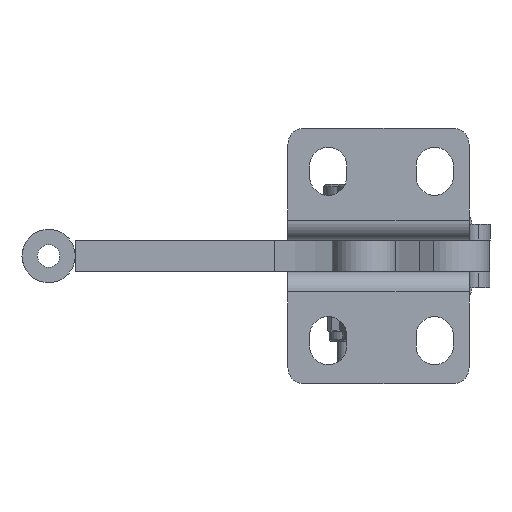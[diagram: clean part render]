
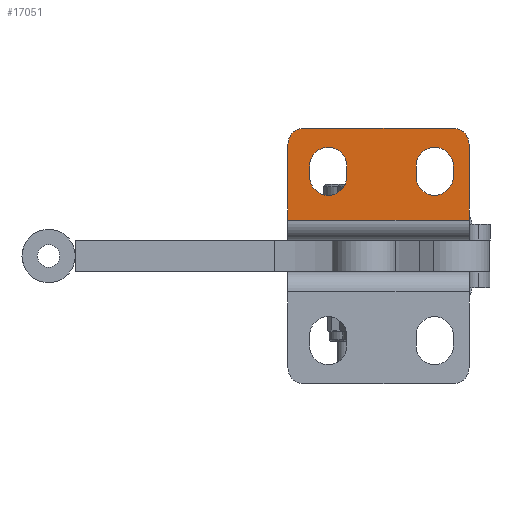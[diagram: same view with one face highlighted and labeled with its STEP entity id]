
A CAD part, front view. The second image highlights one B-rep face of the part: STEP entity #17051.
In plain terms, the highlighted planar face has unit normal (0, -1, 0).
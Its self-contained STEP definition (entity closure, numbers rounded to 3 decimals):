
#460 = EDGE_CURVE ( 'NONE', #12134, #7991, #34077, .T. ) ;
#470 = ORIENTED_EDGE ( 'NONE', *, *, #5639, .T. ) ;
#508 = VERTEX_POINT ( 'NONE', #8697 ) ;
#656 = ORIENTED_EDGE ( 'NONE', *, *, #40962, .T. ) ;
#1043 = DIRECTION ( 'NONE',  ( 0., 1., 0. ) ) ;
#1283 = DIRECTION ( 'NONE',  ( 0., 0., 1. ) ) ;
#1452 = CARTESIAN_POINT ( 'NONE',  ( 19.7, -18.14, 18. ) ) ;
#1495 = CARTESIAN_POINT ( 'NONE',  ( -14.3, -18.14, -18.32 ) ) ;
#1612 = ORIENTED_EDGE ( 'NONE', *, *, #8827, .F. ) ;
#2179 = CARTESIAN_POINT ( 'NONE',  ( -10.25, -18.14, 10.9 ) ) ;
#2248 = DIRECTION ( 'NONE',  ( 0., 0., 1. ) ) ;
#2531 = CARTESIAN_POINT ( 'NONE',  ( -11.3, -18.14, 18. ) ) ;
#2622 = ORIENTED_EDGE ( 'NONE', *, *, #19426, .F. ) ;
#2812 = DIRECTION ( 'NONE',  ( 0., 0., -1. ) ) ;
#3585 = DIRECTION ( 'NONE',  ( 0., 0., -1. ) ) ;
#3758 = FACE_OUTER_BOUND ( 'NONE', #38787, .T. ) ;
#3832 = CIRCLE ( 'NONE', #27038, 3.5 ) ;
#4161 = DIRECTION ( 'NONE',  ( 0., 1., 0. ) ) ;
#4469 = ORIENTED_EDGE ( 'NONE', *, *, #31937, .T. ) ;
#4831 = DIRECTION ( 'NONE',  ( 0., 0., -1. ) ) ;
#4946 = AXIS2_PLACEMENT_3D ( 'NONE', #13488, #1043, #13893 ) ;
#5086 = ORIENTED_EDGE ( 'NONE', *, *, #16093, .F. ) ;
#5639 = EDGE_CURVE ( 'NONE', #21187, #28335, #25520, .T. ) ;
#6071 = LINE ( 'NONE', #6879, #33800 ) ;
#6325 = CARTESIAN_POINT ( 'NONE',  ( -6.75, -18.14, 10.9 ) ) ;
#6494 = CARTESIAN_POINT ( 'NONE',  ( -3.25, -18.14, 10.9 ) ) ;
#6879 = CARTESIAN_POINT ( 'NONE',  ( 37.012, -18.14, 0.737 ) ) ;
#7740 = VERTEX_POINT ( 'NONE', #16437 ) ;
#7746 = CARTESIAN_POINT ( 'NONE',  ( -6.75, -18.14, 8.9 ) ) ;
#7902 = ORIENTED_EDGE ( 'NONE', *, *, #34150, .T. ) ;
#7991 = VERTEX_POINT ( 'NONE', #12036 ) ;
#8697 = CARTESIAN_POINT ( 'NONE',  ( -6.75, -18.14, 5.4 ) ) ;
#8719 = VECTOR ( 'NONE', #3585, 1000. ) ;
#8827 = EDGE_CURVE ( 'NONE', #10641, #31086, #26568, .T. ) ;
#8901 = DIRECTION ( 'NONE',  ( 0., 0., -1. ) ) ;
#9346 = LINE ( 'NONE', #14964, #13157 ) ;
#10641 = VERTEX_POINT ( 'NONE', #40787 ) ;
#11026 = LINE ( 'NONE', #1495, #35394 ) ;
#11403 = VECTOR ( 'NONE', #18892, 1000. ) ;
#11794 = CARTESIAN_POINT ( 'NONE',  ( -6.75, -18.14, 8.9 ) ) ;
#11985 = ORIENTED_EDGE ( 'NONE', *, *, #17950, .T. ) ;
#12036 = CARTESIAN_POINT ( 'NONE',  ( 16.7, -18.14, 18. ) ) ;
#12044 = EDGE_CURVE ( 'NONE', #35690, #19881, #11026, .T. ) ;
#12083 = ORIENTED_EDGE ( 'NONE', *, *, #12474, .T. ) ;
#12134 = VERTEX_POINT ( 'NONE', #2531 ) ;
#12265 = CARTESIAN_POINT ( 'NONE',  ( 13.25, -18.14, 5.4 ) ) ;
#12474 = EDGE_CURVE ( 'NONE', #30758, #508, #14841, .T. ) ;
#12757 = CARTESIAN_POINT ( 'NONE',  ( 16.7, -18.14, 15. ) ) ;
#13157 = VECTOR ( 'NONE', #22039, 1000. ) ;
#13357 = ORIENTED_EDGE ( 'NONE', *, *, #16734, .T. ) ;
#13488 = CARTESIAN_POINT ( 'NONE',  ( 13.25, -18.14, 8.9 ) ) ;
#13707 = DIRECTION ( 'NONE',  ( 0., 0., -1. ) ) ;
#13744 = LINE ( 'NONE', #17263, #17549 ) ;
#13893 = DIRECTION ( 'NONE',  ( 0., 0., -1. ) ) ;
#14033 = VECTOR ( 'NONE', #33864, 1000. ) ;
#14766 = EDGE_CURVE ( 'NONE', #19881, #12134, #24771, .T. ) ;
#14841 = CIRCLE ( 'NONE', #18850, 3.5 ) ;
#14964 = CARTESIAN_POINT ( 'NONE',  ( 9.75, -18.14, 10.9 ) ) ;
#15457 = DIRECTION ( 'NONE',  ( 0., 1., 0. ) ) ;
#16093 = EDGE_CURVE ( 'NONE', #7991, #10641, #29393, .T. ) ;
#16301 = DIRECTION ( 'NONE',  ( 0., 0., 1. ) ) ;
#16437 = CARTESIAN_POINT ( 'NONE',  ( 9.75, -18.14, 8.9 ) ) ;
#16734 = EDGE_CURVE ( 'NONE', #27835, #21187, #3832, .T. ) ;
#17051 = ADVANCED_FACE ( 'N', ( #3758, #38278, #35767 ), #32643, .F. ) ;
#17263 = CARTESIAN_POINT ( 'NONE',  ( -10.25, -18.14, 10.9 ) ) ;
#17356 = CARTESIAN_POINT ( 'NONE',  ( 19.7, -18.14, 0.737 ) ) ;
#17537 = ORIENTED_EDGE ( 'NONE', *, *, #12044, .F. ) ;
#17549 = VECTOR ( 'NONE', #1283, 1000. ) ;
#17950 = EDGE_CURVE ( 'NONE', #7740, #27835, #9346, .T. ) ;
#18182 = ORIENTED_EDGE ( 'NONE', *, *, #460, .F. ) ;
#18594 = DIRECTION ( 'NONE',  ( 0., 0., -1. ) ) ;
#18850 = AXIS2_PLACEMENT_3D ( 'NONE', #11794, #40714, #8901 ) ;
#18892 = DIRECTION ( 'NONE',  ( 0., 0., -1. ) ) ;
#18921 = CIRCLE ( 'NONE', #4946, 3.5 ) ;
#19426 = EDGE_CURVE ( 'NONE', #31086, #35690, #6071, .T. ) ;
#19526 = AXIS2_PLACEMENT_3D ( 'NONE', #12757, #24845, #16301 ) ;
#19881 = VERTEX_POINT ( 'NONE', #23545 ) ;
#20643 = DIRECTION ( 'NONE',  ( 0., 1., 0. ) ) ;
#21187 = VERTEX_POINT ( 'NONE', #41001 ) ;
#21287 = VERTEX_POINT ( 'NONE', #39109 ) ;
#21581 = CARTESIAN_POINT ( 'NONE',  ( -3.25, -18.14, 8.9 ) ) ;
#21595 = CARTESIAN_POINT ( 'NONE',  ( -3.25, -18.14, 10.9 ) ) ;
#21760 = CARTESIAN_POINT ( 'NONE',  ( 9.75, -18.14, 10.9 ) ) ;
#22039 = DIRECTION ( 'NONE',  ( 0., 0., 1. ) ) ;
#22990 = EDGE_LOOP ( 'NONE', ( #13357, #470, #26186, #656, #11985 ) ) ;
#23265 = EDGE_CURVE ( 'NONE', #28335, #27264, #26257, .T. ) ;
#23545 = CARTESIAN_POINT ( 'NONE',  ( -14.3, -18.14, 15. ) ) ;
#24283 = CIRCLE ( 'NONE', #27579, 3.5 ) ;
#24439 = ORIENTED_EDGE ( 'NONE', *, *, #14766, .F. ) ;
#24469 = EDGE_CURVE ( 'NONE', #29667, #36934, #24283, .T. ) ;
#24771 = CIRCLE ( 'NONE', #28772, 3. ) ;
#24805 = CIRCLE ( 'NONE', #34110, 3.5 ) ;
#24831 = ORIENTED_EDGE ( 'NONE', *, *, #27079, .T. ) ;
#24845 = DIRECTION ( 'NONE',  ( 0., 1., 0. ) ) ;
#25437 = CARTESIAN_POINT ( 'NONE',  ( -14.3, -18.14, 0.737 ) ) ;
#25520 = LINE ( 'NONE', #31771, #11403 ) ;
#26029 = DIRECTION ( 'NONE',  ( 0., 0., -1. ) ) ;
#26186 = ORIENTED_EDGE ( 'NONE', *, *, #23265, .T. ) ;
#26257 = CIRCLE ( 'NONE', #31601, 3.5 ) ;
#26568 = LINE ( 'NONE', #1452, #32138 ) ;
#26819 = DIRECTION ( 'NONE',  ( 0., 0., 1. ) ) ;
#27038 = AXIS2_PLACEMENT_3D ( 'NONE', #39138, #32081, #26029 ) ;
#27079 = EDGE_CURVE ( 'NONE', #21287, #29667, #13744, .T. ) ;
#27165 = DIRECTION ( 'NONE',  ( 0., 1., 0. ) ) ;
#27189 = CARTESIAN_POINT ( 'NONE',  ( 16.75, -18.14, 8.9 ) ) ;
#27264 = VERTEX_POINT ( 'NONE', #12265 ) ;
#27579 = AXIS2_PLACEMENT_3D ( 'NONE', #6325, #34413, #2812 ) ;
#27835 = VERTEX_POINT ( 'NONE', #21760 ) ;
#28335 = VERTEX_POINT ( 'NONE', #27189 ) ;
#28495 = DIRECTION ( 'NONE',  ( 0., 0., 1. ) ) ;
#28772 = AXIS2_PLACEMENT_3D ( 'NONE', #34041, #27165, #2248 ) ;
#29393 = CIRCLE ( 'NONE', #19526, 3. ) ;
#29667 = VERTEX_POINT ( 'NONE', #2179 ) ;
#30758 = VERTEX_POINT ( 'NONE', #21581 ) ;
#31047 = AXIS2_PLACEMENT_3D ( 'NONE', #31821, #4161, #28495 ) ;
#31086 = VERTEX_POINT ( 'NONE', #17356 ) ;
#31448 = DIRECTION ( 'NONE',  ( -1., 0., 0. ) ) ;
#31601 = AXIS2_PLACEMENT_3D ( 'NONE', #40842, #15457, #18594 ) ;
#31771 = CARTESIAN_POINT ( 'NONE',  ( 16.75, -18.14, 10.9 ) ) ;
#31821 = CARTESIAN_POINT ( 'NONE',  ( 16.498, -18.14, -26.705 ) ) ;
#31937 = EDGE_CURVE ( 'NONE', #508, #21287, #24805, .T. ) ;
#32081 = DIRECTION ( 'NONE',  ( 0., 1., 0. ) ) ;
#32138 = VECTOR ( 'NONE', #13707, 1000. ) ;
#32643 = PLANE ( 'NONE',  #31047 ) ;
#32712 = ORIENTED_EDGE ( 'NONE', *, *, #24469, .T. ) ;
#33800 = VECTOR ( 'NONE', #31448, 1000. ) ;
#33864 = DIRECTION ( 'NONE',  ( 1., 0., 0. ) ) ;
#34041 = CARTESIAN_POINT ( 'NONE',  ( -11.3, -18.14, 15. ) ) ;
#34077 = LINE ( 'NONE', #37196, #14033 ) ;
#34110 = AXIS2_PLACEMENT_3D ( 'NONE', #7746, #20643, #4831 ) ;
#34150 = EDGE_CURVE ( 'NONE', #36934, #30758, #38721, .T. ) ;
#34413 = DIRECTION ( 'NONE',  ( 0., 1., 0. ) ) ;
#35394 = VECTOR ( 'NONE', #26819, 1000. ) ;
#35690 = VERTEX_POINT ( 'NONE', #25437 ) ;
#35767 = FACE_BOUND ( 'NONE', #22990, .T. ) ;
#36934 = VERTEX_POINT ( 'NONE', #21595 ) ;
#37196 = CARTESIAN_POINT ( 'NONE',  ( -14.3, -18.14, 18. ) ) ;
#38278 = FACE_BOUND ( 'NONE', #38391, .T. ) ;
#38391 = EDGE_LOOP ( 'NONE', ( #32712, #7902, #12083, #4469, #24831 ) ) ;
#38721 = LINE ( 'NONE', #6494, #8719 ) ;
#38787 = EDGE_LOOP ( 'NONE', ( #1612, #5086, #18182, #24439, #17537, #2622 ) ) ;
#39109 = CARTESIAN_POINT ( 'NONE',  ( -10.25, -18.14, 8.9 ) ) ;
#39138 = CARTESIAN_POINT ( 'NONE',  ( 13.25, -18.14, 10.9 ) ) ;
#40714 = DIRECTION ( 'NONE',  ( 0., 1., 0. ) ) ;
#40787 = CARTESIAN_POINT ( 'NONE',  ( 19.7, -18.14, 15. ) ) ;
#40842 = CARTESIAN_POINT ( 'NONE',  ( 13.25, -18.14, 8.9 ) ) ;
#40962 = EDGE_CURVE ( 'NONE', #27264, #7740, #18921, .T. ) ;
#41001 = CARTESIAN_POINT ( 'NONE',  ( 16.75, -18.14, 10.9 ) ) ;
